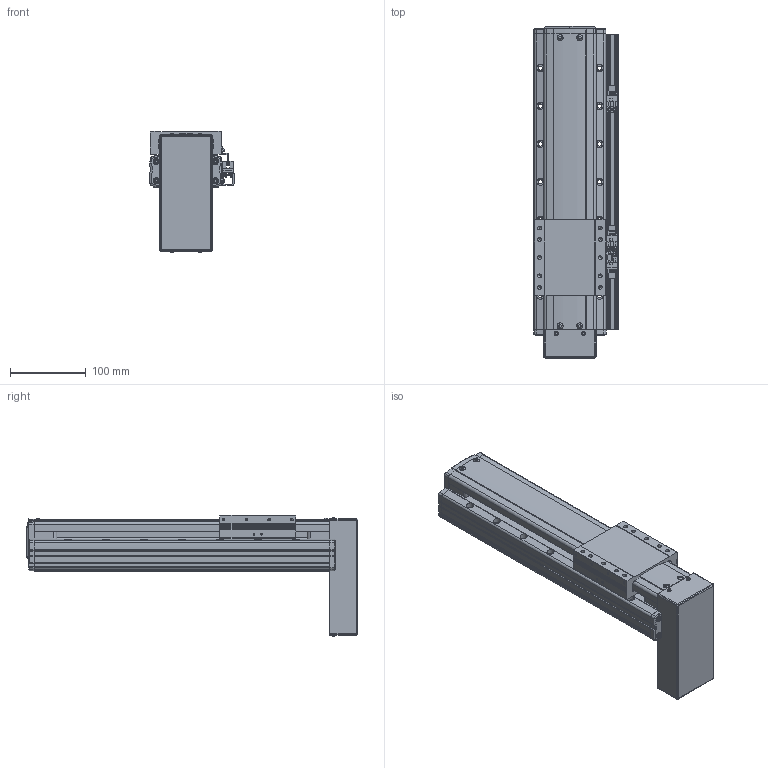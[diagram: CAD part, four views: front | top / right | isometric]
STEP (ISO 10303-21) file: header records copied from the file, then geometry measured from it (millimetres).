
FILE_DESCRIPTION(('STEP AP214'),'1');
FILE_NAME('Z:/Web/3D/PSA95/STP/PSA95-200 (3D)/PSA95ㅁㅁ-200PB+3SR.stp','2014-07-02T23:55:51',(' '),(' '),'Spatial InterOp 3D',' ',' ');
FILE_SCHEMA(('automotive_design'));
Length unit declared in the file: millimetre
Products named in the file (47): BASE; RRCV; 스크루 : Round - M4.0 x 10.0; 너트 : Square - M10.0 x 220.7419; RR1500; FRCV-090; 스크루 : Round - M4.0 x 6.0; SLBL-PA90; MTPL COVER; 스크루 : Round - M3.0 x 6.0; 1; 2; EE-SX674; SBK-SX674-352; M3.0 x 6.0; SRL-16x17-380L; SGD-PA95; 스크루 : Round - M3.0 x 8.0
Bounding box: 111 x 437.5 x 159.57 mm (x, y, z)
Volume: 2647954 mm3; surface area: 356108.4 mm2
Topology: 47 solids, 47 shells, 2470 faces, 6541 edges, 4209 vertices
Faces by surface type: plane 1479, cylinder 665, cone 218, sphere 70, bspline 24, torus 14
Entity records: 98802 total; most frequent: CARTESIAN_POINT 16202, DIRECTION 13096, ORIENTED_EDGE 12850, EDGE_CURVE 6425, LINE 4422, VECTOR 4422, AXIS2_PLACEMENT_3D 4337, VERTEX_POINT 4209
